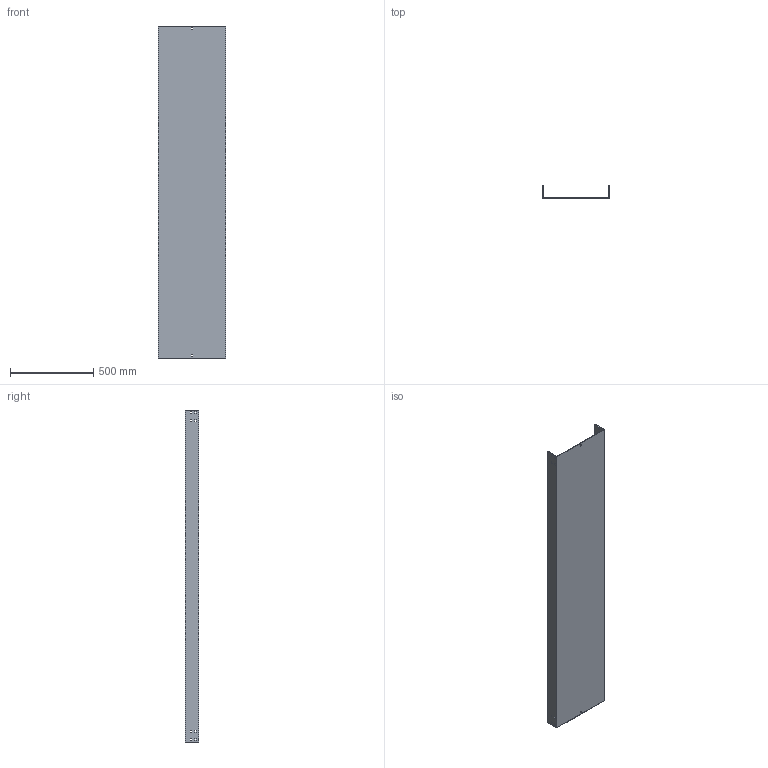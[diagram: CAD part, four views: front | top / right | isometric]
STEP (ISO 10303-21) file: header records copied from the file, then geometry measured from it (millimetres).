
FILE_DESCRIPTION (( 'STEP AP214' ), '1' );
FILE_NAME ('03F2C400.step', '2025-02-21T13:31:56', ( '' ), ( '' ), 'SwSTEP 2.0', 'SolidWorks 2023', '' );
FILE_SCHEMA (( 'AUTOMOTIVE_DESIGN' ));
Length unit declared in the file: millimetre
Products named in the file (1): 03F2C400
Bounding box: 404 x 79 x 2000 mm (x, y, z)
Volume: 3880670.5 mm3; surface area: 2237532 mm2
Topology: 1 solids, 1 shells, 82 faces, 240 edges, 160 vertices
Faces by surface type: plane 82
Entity records: 2759 total; most frequent: CARTESIAN_POINT 483, ORIENTED_EDGE 480, DIRECTION 406, LINE 240, VECTOR 240, EDGE_CURVE 240, VERTEX_POINT 160, EDGE_LOOP 118
